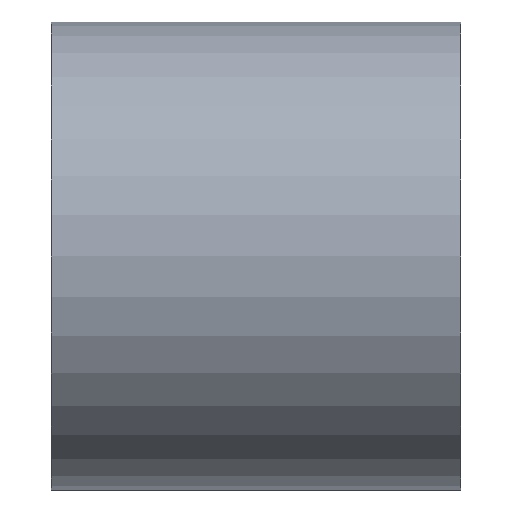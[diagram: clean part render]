
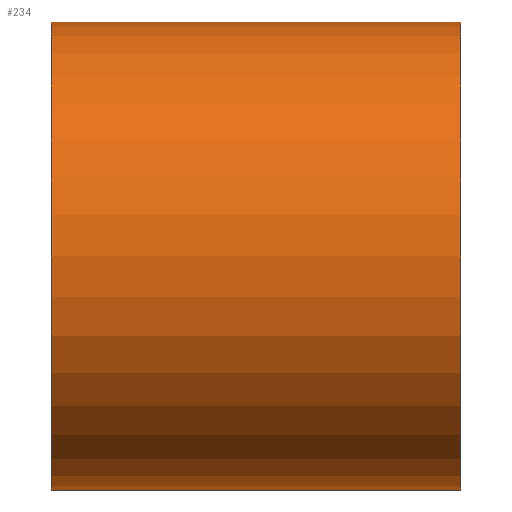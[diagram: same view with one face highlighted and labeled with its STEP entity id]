
A CAD part, front view. The second image highlights one B-rep face of the part: STEP entity #234.
In plain terms, the highlighted cylindrical face has radius 8 mm (diameter 16 mm), a full revolution.
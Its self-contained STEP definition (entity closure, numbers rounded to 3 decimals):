
#234 = ADVANCED_FACE( '', ( #451, #452 ), #453, .T. );
#451 = FACE_OUTER_BOUND( '', #756, .T. );
#452 = FACE_OUTER_BOUND( '', #757, .T. );
#453 = CYLINDRICAL_SURFACE( '', #758, 8. );
#756 = EDGE_LOOP( '', ( #1486 ) );
#757 = EDGE_LOOP( '', ( #1487 ) );
#758 = AXIS2_PLACEMENT_3D( '', #1488, #1489, #1490 );
#1486 = ORIENTED_EDGE( '', *, *, #2055, .T. );
#1487 = ORIENTED_EDGE( '', *, *, #2207, .F. );
#1488 = CARTESIAN_POINT( '', ( 14., 0., 0. ) );
#1489 = DIRECTION( '', ( -1., 0., 0. ) );
#1490 = DIRECTION( '', ( 0., 0., -1. ) );
#2055 = EDGE_CURVE( '', #2447, #2447, #2448, .T. );
#2207 = EDGE_CURVE( '', #2696, #2696, #2697, .T. );
#2447 = VERTEX_POINT( '', #3038 );
#2448 = CIRCLE( '', #3039, 8. );
#2696 = VERTEX_POINT( '', #3402 );
#2697 = CIRCLE( '', #3403, 8. );
#3038 = CARTESIAN_POINT( '', ( 0., 0., -8. ) );
#3039 = AXIS2_PLACEMENT_3D( '', #3793, #3794, #3795 );
#3402 = CARTESIAN_POINT( '', ( 14., 0., -8. ) );
#3403 = AXIS2_PLACEMENT_3D( '', #4019, #4020, #4021 );
#3793 = CARTESIAN_POINT( '', ( 0., 0., 0. ) );
#3794 = DIRECTION( '', ( 1., 0., 0. ) );
#3795 = DIRECTION( '', ( 0., 0., -1. ) );
#4019 = CARTESIAN_POINT( '', ( 14., 0., 0. ) );
#4020 = DIRECTION( '', ( 1., 0., 0. ) );
#4021 = DIRECTION( '', ( 0., 0., -1. ) );
